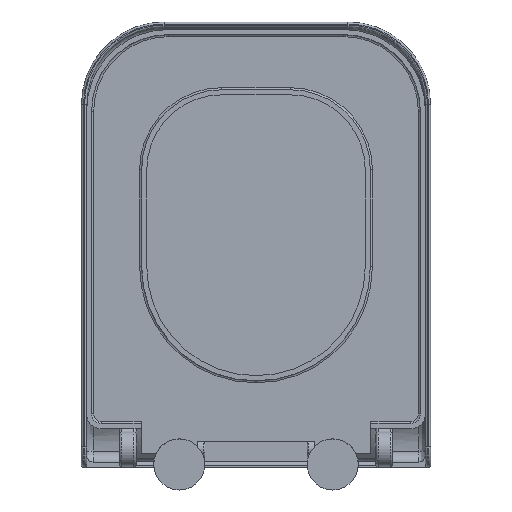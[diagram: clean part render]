
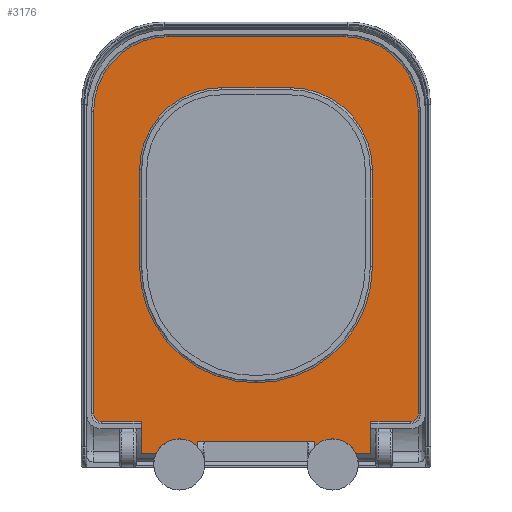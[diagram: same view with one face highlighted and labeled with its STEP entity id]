
A CAD part, front view. The second image highlights one B-rep face of the part: STEP entity #3176.
In plain terms, the highlighted planar face has unit normal (0, -1, 0).
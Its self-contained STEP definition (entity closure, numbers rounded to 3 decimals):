
#33=FACE_BOUND('',#538,.T.);
#343=FACE_OUTER_BOUND('',#537,.T.);
#537=EDGE_LOOP('',(#2664,#2665,#2666,#2667,#2668,#2669,#2670,#2671,#2672,
#2673,#2674,#2675,#2676,#2677,#2678,#2679,#2680,#2681,#2682,#2683,#2684,
#2685,#2686,#2687));
#538=EDGE_LOOP('',(#2688,#2689,#2690,#2691,#2692,#2693,#2694,#2695));
#762=CIRCLE('',#3564,7.6);
#763=CIRCLE('',#3565,73.);
#764=CIRCLE('',#3566,73.);
#765=CIRCLE('',#3567,7.6);
#766=CIRCLE('',#3568,113.7);
#767=CIRCLE('',#3569,113.7);
#768=CIRCLE('',#3570,80.3);
#769=CIRCLE('',#3571,80.3);
#964=LINE('',#7064,#1177);
#965=LINE('',#7082,#1178);
#967=LINE('',#7106,#1180);
#970=LINE('',#7135,#1183);
#972=LINE('',#7142,#1185);
#976=LINE('',#7171,#1189);
#982=LINE('',#7236,#1195);
#984=LINE('',#7239,#1197);
#985=LINE('',#7241,#1198);
#986=LINE('',#7243,#1199);
#987=LINE('',#7245,#1200);
#988=LINE('',#7246,#1201);
#989=LINE('',#7247,#1202);
#990=LINE('',#7249,#1203);
#991=LINE('',#7251,#1204);
#992=LINE('',#7255,#1205);
#993=LINE('',#7259,#1206);
#994=LINE('',#7263,#1207);
#995=LINE('',#7267,#1208);
#996=LINE('',#7268,#1209);
#997=LINE('',#7271,#1210);
#998=LINE('',#7275,#1211);
#999=LINE('',#7279,#1212);
#1000=LINE('',#7283,#1213);
#1177=VECTOR('',#4348,32.14);
#1178=VECTOR('',#4349,12.575);
#1180=VECTOR('',#4351,32.14);
#1183=VECTOR('',#4354,12.575);
#1185=VECTOR('',#4360,11.052);
#1189=VECTOR('',#4370,11.052);
#1195=VECTOR('',#4396,10.02);
#1197=VECTOR('',#4400,11.052);
#1198=VECTOR('',#4403,11.052);
#1199=VECTOR('',#4404,11.252);
#1200=VECTOR('',#4405,115.53);
#1201=VECTOR('',#4406,11.252);
#1202=VECTOR('',#4407,10.02);
#1203=VECTOR('',#4408,30.911);
#1204=VECTOR('',#4409,38.9);
#1205=VECTOR('',#4412,296.342);
#1206=VECTOR('',#4415,172.);
#1207=VECTOR('',#4418,296.342);
#1208=VECTOR('',#4421,38.9);
#1209=VECTOR('',#4422,30.911);
#1210=VECTOR('',#4423,95.);
#1211=VECTOR('',#4426,0.6);
#1212=VECTOR('',#4429,95.);
#1213=VECTOR('',#4432,67.4);
#1446=VERTEX_POINT('',#7047);
#1449=VERTEX_POINT('',#7059);
#1450=VERTEX_POINT('',#7075);
#1452=VERTEX_POINT('',#7081);
#1454=VERTEX_POINT('',#7099);
#1456=VERTEX_POINT('',#7105);
#1457=VERTEX_POINT('',#7122);
#1460=VERTEX_POINT('',#7130);
#1463=VERTEX_POINT('',#7141);
#1466=VERTEX_POINT('',#7169);
#1476=VERTEX_POINT('',#7233);
#1477=VERTEX_POINT('',#7235);
#1478=VERTEX_POINT('',#7242);
#1479=VERTEX_POINT('',#7244);
#1480=VERTEX_POINT('',#7248);
#1481=VERTEX_POINT('',#7250);
#1482=VERTEX_POINT('',#7252);
#1483=VERTEX_POINT('',#7254);
#1484=VERTEX_POINT('',#7256);
#1485=VERTEX_POINT('',#7258);
#1486=VERTEX_POINT('',#7260);
#1487=VERTEX_POINT('',#7262);
#1488=VERTEX_POINT('',#7264);
#1489=VERTEX_POINT('',#7266);
#1490=VERTEX_POINT('',#7269);
#1491=VERTEX_POINT('',#7270);
#1492=VERTEX_POINT('',#7272);
#1493=VERTEX_POINT('',#7274);
#1494=VERTEX_POINT('',#7276);
#1495=VERTEX_POINT('',#7278);
#1496=VERTEX_POINT('',#7280);
#1497=VERTEX_POINT('',#7282);
#1857=EDGE_CURVE('',#1446,#1449,#964,.T.);
#1859=EDGE_CURVE('',#1452,#1450,#965,.T.);
#1863=EDGE_CURVE('',#1456,#1454,#967,.T.);
#1869=EDGE_CURVE('',#1457,#1460,#970,.T.);
#1872=EDGE_CURVE('',#1446,#1463,#972,.T.);
#1878=EDGE_CURVE('',#1450,#1466,#976,.T.);
#1894=EDGE_CURVE('',#1477,#1476,#982,.T.);
#1896=EDGE_CURVE('',#1454,#1477,#984,.T.);
#1897=EDGE_CURVE('',#1457,#1476,#985,.T.);
#1898=EDGE_CURVE('',#1460,#1478,#986,.T.);
#1899=EDGE_CURVE('',#1478,#1479,#987,.T.);
#1900=EDGE_CURVE('',#1452,#1479,#988,.T.);
#1901=EDGE_CURVE('',#1463,#1466,#989,.T.);
#1902=EDGE_CURVE('',#1449,#1480,#990,.T.);
#1903=EDGE_CURVE('',#1481,#1480,#991,.T.);
#1904=EDGE_CURVE('',#1482,#1481,#762,.T.);
#1905=EDGE_CURVE('',#1483,#1482,#992,.T.);
#1906=EDGE_CURVE('',#1484,#1483,#763,.T.);
#1907=EDGE_CURVE('',#1485,#1484,#993,.T.);
#1908=EDGE_CURVE('',#1486,#1485,#764,.T.);
#1909=EDGE_CURVE('',#1487,#1486,#994,.T.);
#1910=EDGE_CURVE('',#1488,#1487,#765,.T.);
#1911=EDGE_CURVE('',#1489,#1488,#995,.T.);
#1912=EDGE_CURVE('',#1489,#1456,#996,.T.);
#1913=EDGE_CURVE('',#1490,#1491,#997,.T.);
#1914=EDGE_CURVE('',#1491,#1492,#766,.T.);
#1915=EDGE_CURVE('',#1492,#1493,#998,.T.);
#1916=EDGE_CURVE('',#1493,#1494,#767,.T.);
#1917=EDGE_CURVE('',#1494,#1495,#999,.T.);
#1918=EDGE_CURVE('',#1495,#1496,#768,.T.);
#1919=EDGE_CURVE('',#1496,#1497,#1000,.T.);
#1920=EDGE_CURVE('',#1497,#1490,#769,.T.);
#2664=ORIENTED_EDGE('',*,*,#1894,.T.);
#2665=ORIENTED_EDGE('',*,*,#1897,.F.);
#2666=ORIENTED_EDGE('',*,*,#1869,.T.);
#2667=ORIENTED_EDGE('',*,*,#1898,.T.);
#2668=ORIENTED_EDGE('',*,*,#1899,.T.);
#2669=ORIENTED_EDGE('',*,*,#1900,.F.);
#2670=ORIENTED_EDGE('',*,*,#1859,.T.);
#2671=ORIENTED_EDGE('',*,*,#1878,.T.);
#2672=ORIENTED_EDGE('',*,*,#1901,.F.);
#2673=ORIENTED_EDGE('',*,*,#1872,.F.);
#2674=ORIENTED_EDGE('',*,*,#1857,.T.);
#2675=ORIENTED_EDGE('',*,*,#1902,.T.);
#2676=ORIENTED_EDGE('',*,*,#1903,.F.);
#2677=ORIENTED_EDGE('',*,*,#1904,.F.);
#2678=ORIENTED_EDGE('',*,*,#1905,.F.);
#2679=ORIENTED_EDGE('',*,*,#1906,.F.);
#2680=ORIENTED_EDGE('',*,*,#1907,.F.);
#2681=ORIENTED_EDGE('',*,*,#1908,.F.);
#2682=ORIENTED_EDGE('',*,*,#1909,.F.);
#2683=ORIENTED_EDGE('',*,*,#1910,.F.);
#2684=ORIENTED_EDGE('',*,*,#1911,.F.);
#2685=ORIENTED_EDGE('',*,*,#1912,.T.);
#2686=ORIENTED_EDGE('',*,*,#1863,.T.);
#2687=ORIENTED_EDGE('',*,*,#1896,.T.);
#2688=ORIENTED_EDGE('',*,*,#1913,.T.);
#2689=ORIENTED_EDGE('',*,*,#1914,.T.);
#2690=ORIENTED_EDGE('',*,*,#1915,.T.);
#2691=ORIENTED_EDGE('',*,*,#1916,.T.);
#2692=ORIENTED_EDGE('',*,*,#1917,.T.);
#2693=ORIENTED_EDGE('',*,*,#1918,.T.);
#2694=ORIENTED_EDGE('',*,*,#1919,.T.);
#2695=ORIENTED_EDGE('',*,*,#1920,.T.);
#3024=PLANE('',#3563);
#3176=ADVANCED_FACE('',(#343,#33),#3024,.F.);
#3563=AXIS2_PLACEMENT_3D('',#7240,#4401,#4402);
#3564=AXIS2_PLACEMENT_3D('',#7253,#4410,#4411);
#3565=AXIS2_PLACEMENT_3D('',#7257,#4413,#4414);
#3566=AXIS2_PLACEMENT_3D('',#7261,#4416,#4417);
#3567=AXIS2_PLACEMENT_3D('',#7265,#4419,#4420);
#3568=AXIS2_PLACEMENT_3D('',#7273,#4424,#4425);
#3569=AXIS2_PLACEMENT_3D('',#7277,#4427,#4428);
#3570=AXIS2_PLACEMENT_3D('',#7281,#4430,#4431);
#3571=AXIS2_PLACEMENT_3D('',#7284,#4433,#4434);
#4348=DIRECTION('',(1.,0.,0.));
#4349=DIRECTION('',(1.,0.,0.));
#4351=DIRECTION('',(1.,0.,0.));
#4354=DIRECTION('',(1.,0.,0.));
#4360=DIRECTION('',(0.,0.,1.));
#4370=DIRECTION('',(0.,0.,1.));
#4396=DIRECTION('',(1.,0.,0.));
#4400=DIRECTION('',(0.,0.,1.));
#4401=DIRECTION('center_axis',(0.,1.,0.));
#4402=DIRECTION('ref_axis',(1.,0.,0.));
#4403=DIRECTION('',(0.,0.,1.));
#4404=DIRECTION('',(0.,0.,1.));
#4405=DIRECTION('',(1.,0.,0.));
#4406=DIRECTION('',(0.,0.,1.));
#4407=DIRECTION('',(-1.,0.,0.));
#4408=DIRECTION('',(0.,0.,1.));
#4409=DIRECTION('',(-1.,0.,0.));
#4410=DIRECTION('center_axis',(0.,1.,0.));
#4411=DIRECTION('ref_axis',(1.,0.,0.));
#4412=DIRECTION('',(0.,0.,-1.));
#4413=DIRECTION('center_axis',(0.,1.,0.));
#4414=DIRECTION('ref_axis',(0.,0.,1.));
#4415=DIRECTION('',(1.,0.,0.));
#4416=DIRECTION('center_axis',(0.,1.,0.));
#4417=DIRECTION('ref_axis',(-1.,0.,0.));
#4418=DIRECTION('',(0.,0.,1.));
#4419=DIRECTION('center_axis',(0.,1.,0.));
#4420=DIRECTION('ref_axis',(0.,0.,-1.));
#4421=DIRECTION('',(-1.,0.,0.));
#4422=DIRECTION('',(0.,0.,-1.));
#4423=DIRECTION('',(0.,0.,-1.));
#4424=DIRECTION('center_axis',(0.,1.,0.));
#4425=DIRECTION('ref_axis',(1.,0.,0.));
#4426=DIRECTION('',(-1.,0.,0.));
#4427=DIRECTION('center_axis',(0.,1.,0.));
#4428=DIRECTION('ref_axis',(0.,0.,-1.));
#4429=DIRECTION('',(0.,0.,1.));
#4430=DIRECTION('center_axis',(0.,1.,0.));
#4431=DIRECTION('ref_axis',(-1.,0.,0.));
#4432=DIRECTION('',(1.,0.,0.));
#4433=DIRECTION('center_axis',(0.,1.,0.));
#4434=DIRECTION('ref_axis',(0.,0.,1.));
#7047=CARTESIAN_POINT('',(80.36,5.,-204.852));
#7059=CARTESIAN_POINT('',(112.5,5.,-204.852));
#7064=CARTESIAN_POINT('',(80.36,5.,-204.852));
#7075=CARTESIAN_POINT('',(70.34,5.,-204.852));
#7081=CARTESIAN_POINT('',(57.765,5.,-204.852));
#7082=CARTESIAN_POINT('',(57.765,5.,-204.852));
#7099=CARTESIAN_POINT('',(-80.36,5.,-204.852));
#7105=CARTESIAN_POINT('',(-112.5,5.,-204.852));
#7106=CARTESIAN_POINT('',(-112.5,5.,-204.852));
#7122=CARTESIAN_POINT('',(-70.34,5.,-204.852));
#7130=CARTESIAN_POINT('',(-57.765,5.,-204.852));
#7135=CARTESIAN_POINT('',(-70.34,5.,-204.852));
#7141=CARTESIAN_POINT('',(80.36,5.,-193.8));
#7142=CARTESIAN_POINT('',(80.36,5.,-204.852));
#7169=CARTESIAN_POINT('',(70.34,5.,-193.8));
#7171=CARTESIAN_POINT('',(70.34,5.,-204.852));
#7233=CARTESIAN_POINT('',(-70.34,5.,-193.8));
#7235=CARTESIAN_POINT('',(-80.36,5.,-193.8));
#7236=CARTESIAN_POINT('',(-80.36,5.,-193.8));
#7239=CARTESIAN_POINT('',(-80.36,5.,-204.852));
#7240=CARTESIAN_POINT('Origin',(0.,5.,0.));
#7241=CARTESIAN_POINT('',(-70.34,5.,-204.852));
#7242=CARTESIAN_POINT('',(-57.765,5.,-193.6));
#7243=CARTESIAN_POINT('',(-57.765,5.,-204.852));
#7244=CARTESIAN_POINT('',(57.765,5.,-193.6));
#7245=CARTESIAN_POINT('',(-57.765,5.,-193.6));
#7246=CARTESIAN_POINT('',(57.765,5.,-204.852));
#7247=CARTESIAN_POINT('',(80.36,5.,-193.8));
#7248=CARTESIAN_POINT('',(112.5,5.,-173.942));
#7249=CARTESIAN_POINT('',(112.5,5.,-204.852));
#7250=CARTESIAN_POINT('',(151.4,5.,-173.942));
#7251=CARTESIAN_POINT('',(151.4,5.,-173.942));
#7252=CARTESIAN_POINT('',(159.,5.,-166.342));
#7253=CARTESIAN_POINT('Origin',(151.4,5.,-166.342));
#7254=CARTESIAN_POINT('',(159.,5.,130.));
#7255=CARTESIAN_POINT('',(159.,5.,130.));
#7256=CARTESIAN_POINT('',(86.,5.,203.));
#7257=CARTESIAN_POINT('Origin',(86.,5.,130.));
#7258=CARTESIAN_POINT('',(-86.,5.,203.));
#7259=CARTESIAN_POINT('',(-86.,5.,203.));
#7260=CARTESIAN_POINT('',(-159.,5.,130.));
#7261=CARTESIAN_POINT('Origin',(-86.,5.,130.));
#7262=CARTESIAN_POINT('',(-159.,5.,-166.342));
#7263=CARTESIAN_POINT('',(-159.,5.,-166.342));
#7264=CARTESIAN_POINT('',(-151.4,5.,-173.942));
#7265=CARTESIAN_POINT('Origin',(-151.4,5.,-166.342));
#7266=CARTESIAN_POINT('',(-112.5,5.,-173.942));
#7267=CARTESIAN_POINT('',(-112.5,5.,-173.942));
#7268=CARTESIAN_POINT('',(-112.5,5.,-173.942));
#7269=CARTESIAN_POINT('',(114.,5.,72.7));
#7270=CARTESIAN_POINT('',(114.,5.,-22.3));
#7271=CARTESIAN_POINT('',(114.,5.,72.7));
#7272=CARTESIAN_POINT('',(0.3,5.,-136.));
#7273=CARTESIAN_POINT('Origin',(0.3,5.,-22.3));
#7274=CARTESIAN_POINT('',(-0.3,5.,-136.));
#7275=CARTESIAN_POINT('',(0.3,5.,-136.));
#7276=CARTESIAN_POINT('',(-114.,5.,-22.3));
#7277=CARTESIAN_POINT('Origin',(-0.3,5.,-22.3));
#7278=CARTESIAN_POINT('',(-114.,5.,72.7));
#7279=CARTESIAN_POINT('',(-114.,5.,-22.3));
#7280=CARTESIAN_POINT('',(-33.7,5.,153.));
#7281=CARTESIAN_POINT('Origin',(-33.7,5.,72.7));
#7282=CARTESIAN_POINT('',(33.7,5.,153.));
#7283=CARTESIAN_POINT('',(-33.7,5.,153.));
#7284=CARTESIAN_POINT('Origin',(33.7,5.,72.7));
